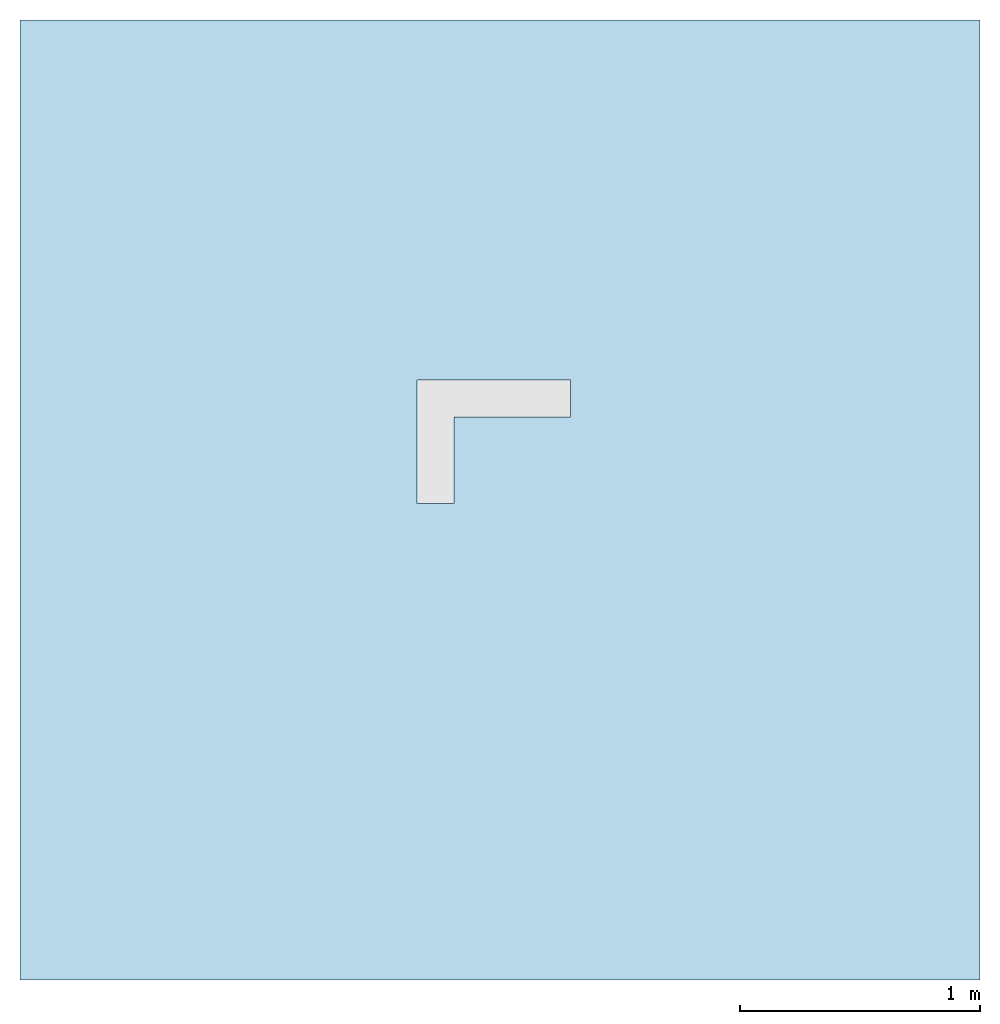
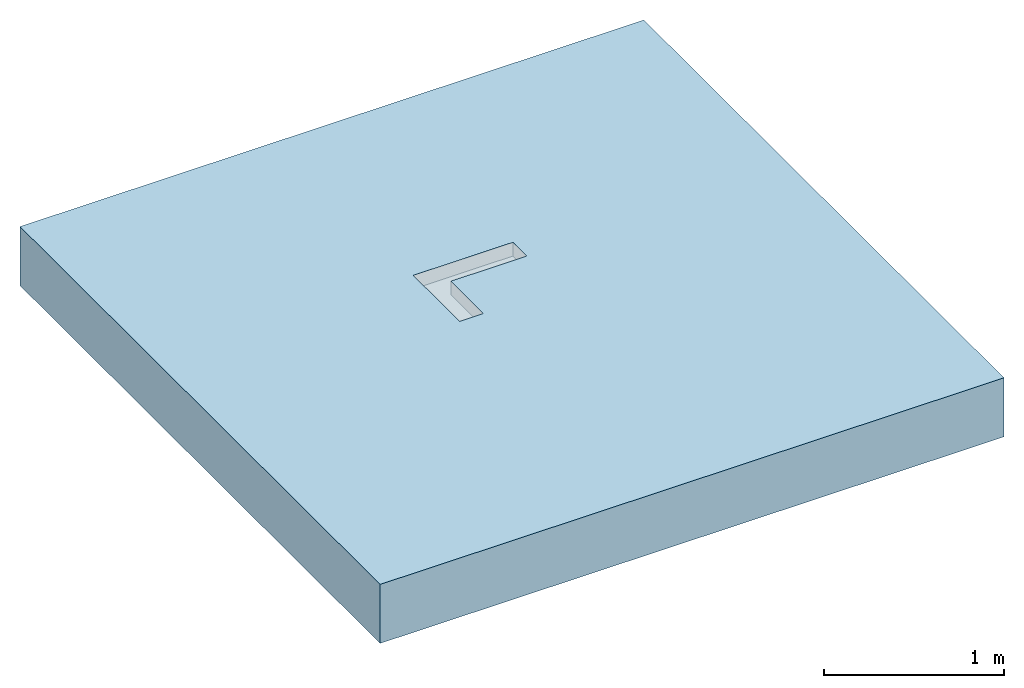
# One storey, incomplete: 1 slab, 1 opening.
"""IFC2X3 building model written with IfcOpenShell, lengths in millimetres."""

from ifc_helpers import new_model, entity, si_unit, converted_unit, direction, frame, frame_2d, origin, place, context, subcontext, project, spatial, polyline, rectangle, outline, extrude, material, layer, layer_set, layer_usage, element, save


model = new_model("IFC2X3")

# Units and contexts
model_context = context("Model", 3, precision=1e-06, world=origin(), true_north=direction((2.0, 6.12303176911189e-17, 1.0)))
context_of_model = context(None, 3, precision=1e-06, world=origin(), true_north=direction((2.0, 6.12303176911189e-17, 1.0)))
body_context = subcontext(model_context, "Body", "Model", "MODEL_VIEW")
ifc_project = project(units=[si_unit("LENGTHUNIT", "METRE", prefix="MILLI"), si_unit("AREAUNIT", "SQUARE_METRE", prefix="MILLI"), si_unit("VOLUMEUNIT", "CUBIC_METRE", prefix="MILLI"), converted_unit("PLANEANGLEUNIT", "DEGREE", entity("IfcRatioMeasure", 0.0174532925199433), si_unit("PLANEANGLEUNIT", "RADIAN"), dimensions=[0, 0, 0, 0, 0, 0, 0]), si_unit("TIMEUNIT", "SECOND")], contexts=[model_context, context_of_model])

# Site, building, storey
site_placement = place(None, origin())
site = spatial("IfcSite", under=ifc_project, at=site_placement, Name="Default", CompositionType="ELEMENT")
building_placement = place(site_placement, origin())
building = spatial("IfcBuilding", under=site, at=building_placement, CompositionType="ELEMENT")
storey_placement = place(building_placement, origin())
storey = spatial("IfcBuildingStorey", under=building, at=storey_placement, Name="Level 1", CompositionType="ELEMENT", Elevation=0.0)

# Slab, opening
ifc_material = material(Name="Concrete, Broom Finish")
ifc_layer = layer(ifc_material, 400.0)
ifc_layer_set = layer_set([ifc_layer], Name="Floor:Generic Floor - 400mm")
ifc_layer_usage = layer_usage(ifc_layer_set, "AXIS3", "POSITIVE", 0.0)
slab_placement = place(storey_placement, origin())
slab = element("IfcSlab", 1, at=slab_placement, inside=storey, material=ifc_layer_usage, Name="Floor:Generic Floor - 400mm", ObjectType="Floor:Generic Floor - 400mm", PredefinedType="FLOOR", context=body_context, shape_type="SweptSolid", body=[
    extrude(rectangle(XDim=4000.0, YDim=4000.0, at=frame_2d((0.0, 0.0), x_axis=(0.0, -1.0))), frame((-42.176138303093, 0.318612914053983, 0.0), z_axis=(0.0, 0.0, -1.0), x_axis=(-1.0, 0.0, 0.0)), (0.0, 0.0, 1.0), 400.0),
])
opening_placement = place(slab_placement, origin())
element("IfcOpeningElement", 2, at=opening_placement, cuts=slab, ObjectType="Recess", context=body_context, shape_type="SweptSolid", body=[
    extrude(outline(polyline([(-291.666666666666, -111.0), (-291.666666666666, -264.0), (222.333333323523, -264.0), (222.333333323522, 375.0), (69.3333333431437, 375.0), (69.3333333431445, -111.0), (-291.666666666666, -111.0)])), frame((-123.018981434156, 277.077343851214, -92.8000000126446), z_axis=(0.0, 0.0, -1.0), x_axis=(0.0, 1.0, 0.0)), (0.0, 0.0, -1.0), 92.8000000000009),
])

save(model, "model.ifc")
